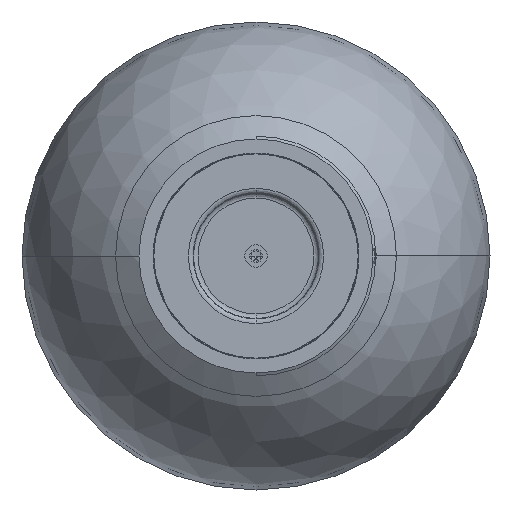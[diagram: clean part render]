
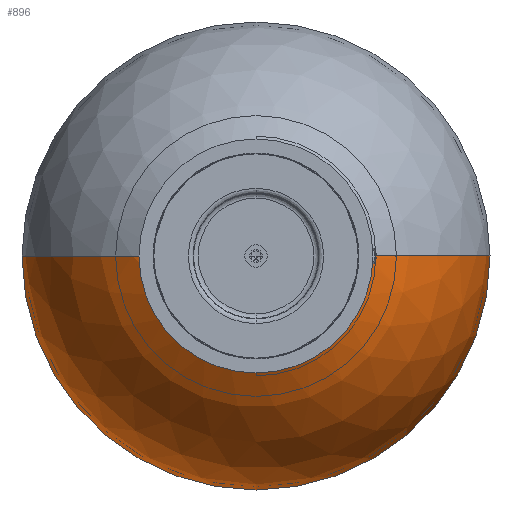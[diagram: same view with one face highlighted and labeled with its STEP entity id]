
A CAD part, front view. The second image highlights one B-rep face of the part: STEP entity #896.
In plain terms, the highlighted spherical face has radius 125 mm.
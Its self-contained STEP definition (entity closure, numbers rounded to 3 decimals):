
#720=CARTESIAN_POINT('',(0.,4025.,0.));
#721=DIRECTION('',(0.,-1.,0.));
#722=DIRECTION('',(-1.,0.,0.));
#723=AXIS2_PLACEMENT_3D('',#720,#721,#722);
#740=CARTESIAN_POINT('',(58.605,3914.781,0.));
#741=DIRECTION('',(-0.469,0.883,0.));
#742=DIRECTION('',(0.883,0.469,0.));
#743=AXIS2_PLACEMENT_3D('',#740,#741,#742);
#745=CARTESIAN_POINT('',(0.,4025.,0.));
#746=DIRECTION('',(0.,0.,-1.));
#747=DIRECTION('',(-0.052,-0.999,0.));
#748=AXIS2_PLACEMENT_3D('',#745,#746,#747);
#750=CARTESIAN_POINT('',(0.,3900.169,0.));
#751=DIRECTION('',(0.,-1.,0.));
#752=DIRECTION('',(-1.,0.,0.));
#753=AXIS2_PLACEMENT_3D('',#750,#751,#752);
#755=CARTESIAN_POINT('',(0.,4025.,-6.5));
#756=DIRECTION('',(0.,0.,1.));
#757=DIRECTION('',(0.,-1.,0.));
#758=AXIS2_PLACEMENT_3D('',#755,#756,#757);
#823=CARTESIAN_POINT('',(0.,4025.,0.));
#824=DIRECTION('',(0.,0.,1.));
#825=DIRECTION('',(0.515,-0.857,0.));
#826=AXIS2_PLACEMENT_3D('',#823,#824,#825);
#828=CARTESIAN_POINT('',(-125.,4025.,0.));
#829=CARTESIAN_POINT('',(125.,4025.,0.));
#830=VERTEX_POINT('',#828);
#831=VERTEX_POINT('',#829);
#836=CARTESIAN_POINT('',(-6.5,3900.169,0.));
#837=VERTEX_POINT('',#836);
#842=CARTESIAN_POINT('',(0.,3900.169,-6.5));
#843=VERTEX_POINT('',#842);
#849=CARTESIAN_POINT('',(64.344,3917.832,0.));
#851=VERTEX_POINT('',#849);
#852=CARTESIAN_POINT('',(58.605,3914.781,-6.5));
#853=VERTEX_POINT('',#852);
#878=CARTESIAN_POINT('',(0.,4025.,0.));
#879=DIRECTION('',(0.,-1.,0.));
#880=DIRECTION('',(-1.,0.,0.));
#881=AXIS2_PLACEMENT_3D('',#878,#879,#880);
#882=SPHERICAL_SURFACE('',#881,125.);
#884=ORIENTED_EDGE('',*,*,#883,.F.);
#886=ORIENTED_EDGE('',*,*,#885,.T.);
#887=ORIENTED_EDGE('',*,*,#865,.F.);
#889=ORIENTED_EDGE('',*,*,#888,.F.);
#891=ORIENTED_EDGE('',*,*,#890,.T.);
#893=ORIENTED_EDGE('',*,*,#892,.T.);
#894=EDGE_LOOP('',(#884,#886,#887,#889,#891,#893));
#895=FACE_OUTER_BOUND('',#894,.F.);
#896=ADVANCED_FACE('',(#895),#882,.T.);
#724=CIRCLE('',#723,125.);
#744=CIRCLE('',#743,6.5);
#749=CIRCLE('',#748,125.);
#754=CIRCLE('',#753,6.5);
#759=CIRCLE('',#758,124.831);
#827=CIRCLE('',#826,125.);
#865=EDGE_CURVE('',#830,#831,#724,.T.);
#883=EDGE_CURVE('',#851,#853,#744,.T.);
#885=EDGE_CURVE('',#851,#831,#827,.T.);
#888=EDGE_CURVE('',#837,#830,#749,.T.);
#890=EDGE_CURVE('',#837,#843,#754,.T.);
#892=EDGE_CURVE('',#843,#853,#759,.T.);
